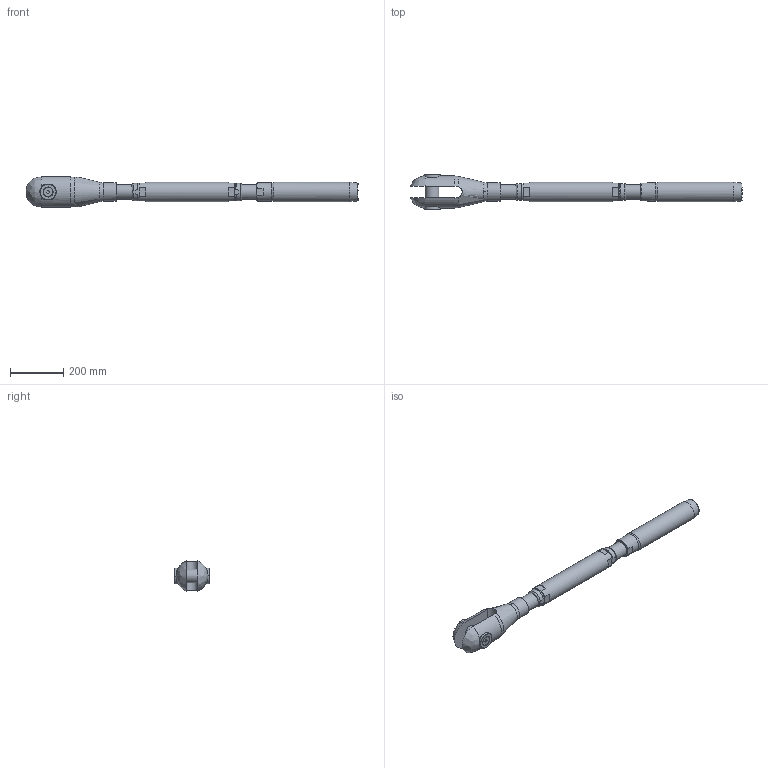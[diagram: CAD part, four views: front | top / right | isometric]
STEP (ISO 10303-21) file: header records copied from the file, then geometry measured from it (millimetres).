
FILE_DESCRIPTION(/* description */ (''),/* implementation_level */ '2;1');
FILE_NAME(/* name */ 'TBC 38_42CrMo4',/* time_stamp */ '2023-05-23T18:16:52+02:00',/* author */ (''),/* organization */ (''),/* preprocessor_version */ 'ST-DEVELOPER v16.5',/* originating_system */ 'Rhino 7.22',/* authorisation */ '');
FILE_SCHEMA (('CONFIG_CONTROL_DESIGN'));
Length unit declared in the file: millimetre
Products named in the file (1): Document
Bounding box: 1251.67 x 131.78 x 113.48 mm (x, y, z)
Volume: 5356488.3 mm3; surface area: 540234.7 mm2
Topology: 10 solids, 10 shells, 143 faces, 391 edges, 268 vertices
Faces by surface type: plane 65, bspline 43, cylinder 35
Full cylindrical faces by diameter (mm): 17.294 x2, 20 x2, 21 x2, 35.4 x2, 52 x1, 52.752 x4, 53 x2, 56 x2, 60 x3, 70 x2, 73.5 x1, 74 x1
Entity records: 6088 total; most frequent: CARTESIAN_POINT 3620, ORIENTED_EDGE 774, EDGE_CURVE 387, VERTEX_POINT 268, EDGE_LOOP 163, B_SPLINE_CURVE_WITH_KNOTS 160, ADVANCED_FACE 143, FACE_OUTER_BOUND 143
